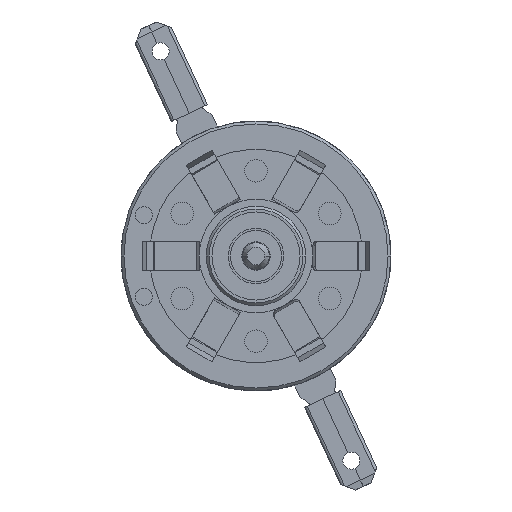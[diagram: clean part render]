
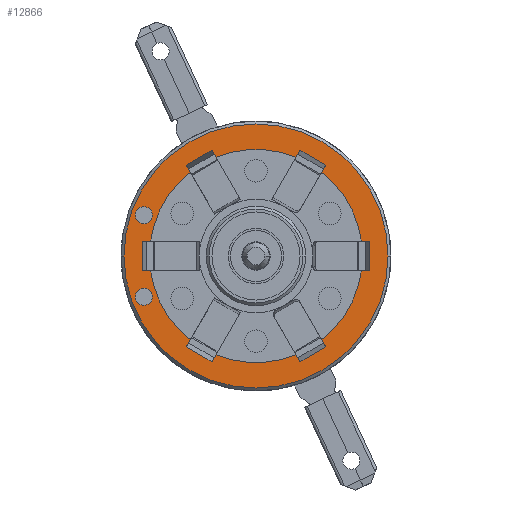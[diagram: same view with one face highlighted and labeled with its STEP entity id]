
A CAD part, left-side view. The second image highlights one B-rep face of the part: STEP entity #12866.
In plain terms, the highlighted planar face has unit normal (-1, 0, 0).
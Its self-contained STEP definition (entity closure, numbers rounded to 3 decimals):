
#4977=CARTESIAN_POINT('',(-1.4,0.,0.));
#4978=DIRECTION('',(-1.,0.,0.));
#4979=DIRECTION('',(0.,-1.,0.));
#4980=AXIS2_PLACEMENT_3D('',#4977,#4978,#4979);
#4985=CARTESIAN_POINT('',(-1.4,0.,0.));
#4986=DIRECTION('',(-1.,0.,0.));
#4987=DIRECTION('',(0.,1.,0.));
#4988=AXIS2_PLACEMENT_3D('',#4985,#4986,#4987);
#4993=CARTESIAN_POINT('',(-1.4,7.89,-2.87));
#4994=DIRECTION('',(1.,0.,0.));
#4995=DIRECTION('',(0.,1.,0.));
#4996=AXIS2_PLACEMENT_3D('',#4993,#4994,#4995);
#5001=CARTESIAN_POINT('',(-1.4,7.89,-2.87));
#5002=DIRECTION('',(1.,0.,0.));
#5003=DIRECTION('',(0.,-1.,0.));
#5004=AXIS2_PLACEMENT_3D('',#5001,#5002,#5003);
#5009=CARTESIAN_POINT('',(-1.4,7.89,2.87));
#5010=DIRECTION('',(1.,0.,0.));
#5011=DIRECTION('',(0.,1.,0.));
#5012=AXIS2_PLACEMENT_3D('',#5009,#5010,#5011);
#5017=CARTESIAN_POINT('',(-1.4,7.89,2.87));
#5018=DIRECTION('',(1.,0.,0.));
#5019=DIRECTION('',(0.,-1.,0.));
#5020=AXIS2_PLACEMENT_3D('',#5017,#5018,#5019);
#5025=DIRECTION('',(0.,-0.5,0.866));
#5026=VECTOR('',#5025,0.574);
#5027=CARTESIAN_POINT('',(-1.4,-4.622,5.906));
#5028=LINE('',#5027,#5026);
#5032=DIRECTION('',(0.,0.866,0.5));
#5033=VECTOR('',#5032,2.1);
#5034=CARTESIAN_POINT('',(-1.4,-4.909,6.403));
#5035=LINE('',#5034,#5033);
#5039=DIRECTION('',(0.,-0.5,0.866));
#5040=VECTOR('',#5039,0.574);
#5041=CARTESIAN_POINT('',(-1.4,-2.804,6.956));
#5042=LINE('',#5041,#5040);
#5046=DIRECTION('',(0.,0.5,0.866));
#5047=VECTOR('',#5046,0.574);
#5048=CARTESIAN_POINT('',(-1.4,2.804,6.956));
#5049=LINE('',#5048,#5047);
#5053=DIRECTION('',(0.,0.866,-0.5));
#5054=VECTOR('',#5053,2.1);
#5055=CARTESIAN_POINT('',(-1.4,3.091,7.453));
#5056=LINE('',#5055,#5054);
#5060=DIRECTION('',(0.,0.5,0.866));
#5061=VECTOR('',#5060,0.574);
#5062=CARTESIAN_POINT('',(-1.4,4.622,5.906));
#5063=LINE('',#5062,#5061);
#5067=DIRECTION('',(0.,1.,0.));
#5068=VECTOR('',#5067,0.574);
#5069=CARTESIAN_POINT('',(-1.4,7.426,1.05));
#5070=LINE('',#5069,#5068);
#5074=DIRECTION('',(0.,0.,-1.));
#5075=VECTOR('',#5074,2.1);
#5076=CARTESIAN_POINT('',(-1.4,8.,1.05));
#5077=LINE('',#5076,#5075);
#5081=DIRECTION('',(0.,1.,0.));
#5082=VECTOR('',#5081,0.574);
#5083=CARTESIAN_POINT('',(-1.4,7.426,-1.05));
#5084=LINE('',#5083,#5082);
#5088=DIRECTION('',(0.,-0.5,0.866));
#5089=VECTOR('',#5088,0.574);
#5090=CARTESIAN_POINT('',(-1.4,4.909,-6.403));
#5091=LINE('',#5090,#5089);
#5095=DIRECTION('',(0.,-0.866,-0.5));
#5096=VECTOR('',#5095,2.1);
#5097=CARTESIAN_POINT('',(-1.4,4.909,-6.403));
#5098=LINE('',#5097,#5096);
#5102=DIRECTION('',(0.,-0.5,0.866));
#5103=VECTOR('',#5102,0.574);
#5104=CARTESIAN_POINT('',(-1.4,3.091,-7.453));
#5105=LINE('',#5104,#5103);
#5109=DIRECTION('',(0.,0.5,0.866));
#5110=VECTOR('',#5109,0.574);
#5111=CARTESIAN_POINT('',(-1.4,-3.091,-7.453));
#5112=LINE('',#5111,#5110);
#5116=DIRECTION('',(0.,-0.866,0.5));
#5117=VECTOR('',#5116,2.1);
#5118=CARTESIAN_POINT('',(-1.4,-3.091,-7.453));
#5119=LINE('',#5118,#5117);
#5123=DIRECTION('',(0.,0.5,0.866));
#5124=VECTOR('',#5123,0.574);
#5125=CARTESIAN_POINT('',(-1.4,-4.909,-6.403));
#5126=LINE('',#5125,#5124);
#5130=DIRECTION('',(0.,1.,0.));
#5131=VECTOR('',#5130,0.574);
#5132=CARTESIAN_POINT('',(-1.4,-8.,-1.05));
#5133=LINE('',#5132,#5131);
#5137=DIRECTION('',(0.,0.,1.));
#5138=VECTOR('',#5137,2.1);
#5139=CARTESIAN_POINT('',(-1.4,-8.,-1.05));
#5140=LINE('',#5139,#5138);
#5144=DIRECTION('',(0.,1.,0.));
#5145=VECTOR('',#5144,0.574);
#5146=CARTESIAN_POINT('',(-1.4,-8.,1.05));
#5147=LINE('',#5146,#5145);
#5597=CARTESIAN_POINT('',(-1.4,0.,0.));
#5598=DIRECTION('',(1.,0.,0.));
#5599=DIRECTION('',(0.,-0.99,-0.14));
#5600=AXIS2_PLACEMENT_3D('',#5597,#5598,#5599);
#5845=CARTESIAN_POINT('',(-1.4,0.,0.));
#5846=DIRECTION('',(1.,0.,0.));
#5847=DIRECTION('',(0.,-0.374,-0.927));
#5848=AXIS2_PLACEMENT_3D('',#5845,#5846,#5847);
#6071=CARTESIAN_POINT('',(-1.4,0.,0.));
#6072=DIRECTION('',(1.,0.,0.));
#6073=DIRECTION('',(0.,0.616,-0.787));
#6074=AXIS2_PLACEMENT_3D('',#6071,#6072,#6073);
#6297=CARTESIAN_POINT('',(-1.4,0.,0.));
#6298=DIRECTION('',(1.,0.,0.));
#6299=DIRECTION('',(0.,0.99,0.14));
#6300=AXIS2_PLACEMENT_3D('',#6297,#6298,#6299);
#6523=CARTESIAN_POINT('',(-1.4,0.,0.));
#6524=DIRECTION('',(1.,0.,0.));
#6525=DIRECTION('',(0.,0.374,0.927));
#6526=AXIS2_PLACEMENT_3D('',#6523,#6524,#6525);
#6707=CARTESIAN_POINT('',(-1.4,0.,0.));
#6708=DIRECTION('',(1.,0.,0.));
#6709=DIRECTION('',(0.,-0.616,0.787));
#6710=AXIS2_PLACEMENT_3D('',#6707,#6708,#6709);
#8342=CARTESIAN_POINT('',(-1.4,-9.3,0.));
#8343=CARTESIAN_POINT('',(-1.4,9.3,0.));
#8344=VERTEX_POINT('',#8342);
#8345=VERTEX_POINT('',#8343);
#8358=CARTESIAN_POINT('',(-1.4,8.49,-2.87));
#8359=CARTESIAN_POINT('',(-1.4,7.29,-2.87));
#8360=VERTEX_POINT('',#8358);
#8361=VERTEX_POINT('',#8359);
#8362=CARTESIAN_POINT('',(-1.4,-8.,-1.05));
#8363=CARTESIAN_POINT('',(-1.4,-7.426,-1.05));
#8364=VERTEX_POINT('',#8362);
#8365=VERTEX_POINT('',#8363);
#8366=CARTESIAN_POINT('',(-1.4,-8.,1.05));
#8367=CARTESIAN_POINT('',(-1.4,-7.426,1.05));
#8368=VERTEX_POINT('',#8366);
#8369=VERTEX_POINT('',#8367);
#8454=CARTESIAN_POINT('',(-1.4,-3.091,-7.453));
#8455=CARTESIAN_POINT('',(-1.4,-2.804,-6.956));
#8456=VERTEX_POINT('',#8454);
#8457=VERTEX_POINT('',#8455);
#8458=CARTESIAN_POINT('',(-1.4,-4.909,-6.403));
#8459=CARTESIAN_POINT('',(-1.4,-4.622,-5.906));
#8460=VERTEX_POINT('',#8458);
#8461=VERTEX_POINT('',#8459);
#8470=CARTESIAN_POINT('',(-1.4,4.909,-6.403));
#8471=CARTESIAN_POINT('',(-1.4,4.622,-5.906));
#8472=VERTEX_POINT('',#8470);
#8473=VERTEX_POINT('',#8471);
#8474=CARTESIAN_POINT('',(-1.4,3.091,-7.453));
#8475=CARTESIAN_POINT('',(-1.4,2.804,-6.956));
#8476=VERTEX_POINT('',#8474);
#8477=VERTEX_POINT('',#8475);
#8532=CARTESIAN_POINT('',(-1.4,8.49,2.87));
#8533=CARTESIAN_POINT('',(-1.4,7.29,2.87));
#8534=VERTEX_POINT('',#8532);
#8535=VERTEX_POINT('',#8533);
#8616=CARTESIAN_POINT('',(-1.4,7.426,1.05));
#8617=CARTESIAN_POINT('',(-1.4,8.,1.05));
#8618=VERTEX_POINT('',#8616);
#8619=VERTEX_POINT('',#8617);
#8620=CARTESIAN_POINT('',(-1.4,7.426,-1.05));
#8621=CARTESIAN_POINT('',(-1.4,8.,-1.05));
#8622=VERTEX_POINT('',#8620);
#8623=VERTEX_POINT('',#8621);
#8644=CARTESIAN_POINT('',(-1.4,2.804,6.956));
#8645=CARTESIAN_POINT('',(-1.4,3.091,7.453));
#8646=VERTEX_POINT('',#8644);
#8647=VERTEX_POINT('',#8645);
#8648=CARTESIAN_POINT('',(-1.4,4.622,5.906));
#8649=CARTESIAN_POINT('',(-1.4,4.909,6.403));
#8650=VERTEX_POINT('',#8648);
#8651=VERTEX_POINT('',#8649);
#8668=CARTESIAN_POINT('',(-1.4,-4.622,5.906));
#8669=CARTESIAN_POINT('',(-1.4,-4.909,6.403));
#8670=VERTEX_POINT('',#8668);
#8671=VERTEX_POINT('',#8669);
#8672=CARTESIAN_POINT('',(-1.4,-2.804,6.956));
#8673=CARTESIAN_POINT('',(-1.4,-3.091,7.453));
#8674=VERTEX_POINT('',#8672);
#8675=VERTEX_POINT('',#8673);
#12796=CARTESIAN_POINT('',(-1.4,0.,0.));
#12797=DIRECTION('',(1.,0.,0.));
#12798=DIRECTION('',(0.,-1.,0.));
#12799=AXIS2_PLACEMENT_3D('',#12796,#12797,#12798);
#12800=PLANE('',#12799);
#12802=ORIENTED_EDGE('',*,*,#12801,.F.);
#12804=ORIENTED_EDGE('',*,*,#12803,.F.);
#12805=EDGE_LOOP('',(#12802,#12804));
#12806=FACE_OUTER_BOUND('',#12805,.F.);
#12808=ORIENTED_EDGE('',*,*,#12807,.F.);
#12810=ORIENTED_EDGE('',*,*,#12809,.F.);
#12811=EDGE_LOOP('',(#12808,#12810));
#12812=FACE_BOUND('',#12811,.F.);
#12814=ORIENTED_EDGE('',*,*,#12813,.F.);
#12816=ORIENTED_EDGE('',*,*,#12815,.F.);
#12817=EDGE_LOOP('',(#12814,#12816));
#12818=FACE_BOUND('',#12817,.F.);
#12820=ORIENTED_EDGE('',*,*,#12819,.T.);
#12822=ORIENTED_EDGE('',*,*,#12821,.T.);
#12824=ORIENTED_EDGE('',*,*,#12823,.F.);
#12826=ORIENTED_EDGE('',*,*,#12825,.F.);
#12828=ORIENTED_EDGE('',*,*,#12827,.T.);
#12830=ORIENTED_EDGE('',*,*,#12829,.T.);
#12832=ORIENTED_EDGE('',*,*,#12831,.F.);
#12834=ORIENTED_EDGE('',*,*,#12833,.F.);
#12836=ORIENTED_EDGE('',*,*,#12835,.T.);
#12838=ORIENTED_EDGE('',*,*,#12837,.T.);
#12840=ORIENTED_EDGE('',*,*,#12839,.F.);
#12842=ORIENTED_EDGE('',*,*,#12841,.F.);
#12844=ORIENTED_EDGE('',*,*,#12843,.F.);
#12846=ORIENTED_EDGE('',*,*,#12845,.T.);
#12848=ORIENTED_EDGE('',*,*,#12847,.T.);
#12850=ORIENTED_EDGE('',*,*,#12849,.F.);
#12852=ORIENTED_EDGE('',*,*,#12851,.F.);
#12854=ORIENTED_EDGE('',*,*,#12853,.T.);
#12856=ORIENTED_EDGE('',*,*,#12855,.T.);
#12858=ORIENTED_EDGE('',*,*,#12857,.F.);
#12859=ORIENTED_EDGE('',*,*,#12715,.F.);
#12860=ORIENTED_EDGE('',*,*,#12783,.T.);
#12861=ORIENTED_EDGE('',*,*,#12663,.T.);
#12863=ORIENTED_EDGE('',*,*,#12862,.F.);
#12864=EDGE_LOOP('',(#12820,#12822,#12824,#12826,#12828,#12830,#12832,#12834,
#12836,#12838,#12840,#12842,#12844,#12846,#12848,#12850,#12852,#12854,#12856,
#12858,#12859,#12860,#12861,#12863));
#12865=FACE_BOUND('',#12864,.F.);
#12866=ADVANCED_FACE('',(#12806,#12812,#12818,#12865),#12800,.F.);
#4981=CIRCLE('',#4980,9.3);
#4989=CIRCLE('',#4988,9.3);
#4997=CIRCLE('',#4996,0.6);
#5005=CIRCLE('',#5004,0.6);
#5013=CIRCLE('',#5012,0.6);
#5021=CIRCLE('',#5020,0.6);
#5601=CIRCLE('',#5600,7.5);
#5849=CIRCLE('',#5848,7.5);
#6075=CIRCLE('',#6074,7.5);
#6301=CIRCLE('',#6300,7.5);
#6527=CIRCLE('',#6526,7.5);
#6711=CIRCLE('',#6710,7.5);
#12663=EDGE_CURVE('',#8368,#8369,#5147,.T.);
#12715=EDGE_CURVE('',#8364,#8365,#5133,.T.);
#12783=EDGE_CURVE('',#8364,#8368,#5140,.T.);
#12801=EDGE_CURVE('',#8344,#8345,#4981,.T.);
#12803=EDGE_CURVE('',#8345,#8344,#4989,.T.);
#12807=EDGE_CURVE('',#8360,#8361,#4997,.T.);
#12809=EDGE_CURVE('',#8361,#8360,#5005,.T.);
#12813=EDGE_CURVE('',#8534,#8535,#5013,.T.);
#12815=EDGE_CURVE('',#8535,#8534,#5021,.T.);
#12819=EDGE_CURVE('',#8670,#8671,#5028,.T.);
#12821=EDGE_CURVE('',#8671,#8675,#5035,.T.);
#12823=EDGE_CURVE('',#8674,#8675,#5042,.T.);
#12825=EDGE_CURVE('',#8646,#8674,#6527,.T.);
#12827=EDGE_CURVE('',#8646,#8647,#5049,.T.);
#12829=EDGE_CURVE('',#8647,#8651,#5056,.T.);
#12831=EDGE_CURVE('',#8650,#8651,#5063,.T.);
#12833=EDGE_CURVE('',#8618,#8650,#6301,.T.);
#12835=EDGE_CURVE('',#8618,#8619,#5070,.T.);
#12837=EDGE_CURVE('',#8619,#8623,#5077,.T.);
#12839=EDGE_CURVE('',#8622,#8623,#5084,.T.);
#12841=EDGE_CURVE('',#8473,#8622,#6075,.T.);
#12843=EDGE_CURVE('',#8472,#8473,#5091,.T.);
#12845=EDGE_CURVE('',#8472,#8476,#5098,.T.);
#12847=EDGE_CURVE('',#8476,#8477,#5105,.T.);
#12849=EDGE_CURVE('',#8457,#8477,#5849,.T.);
#12851=EDGE_CURVE('',#8456,#8457,#5112,.T.);
#12853=EDGE_CURVE('',#8456,#8460,#5119,.T.);
#12855=EDGE_CURVE('',#8460,#8461,#5126,.T.);
#12857=EDGE_CURVE('',#8365,#8461,#5601,.T.);
#12862=EDGE_CURVE('',#8670,#8369,#6711,.T.);
